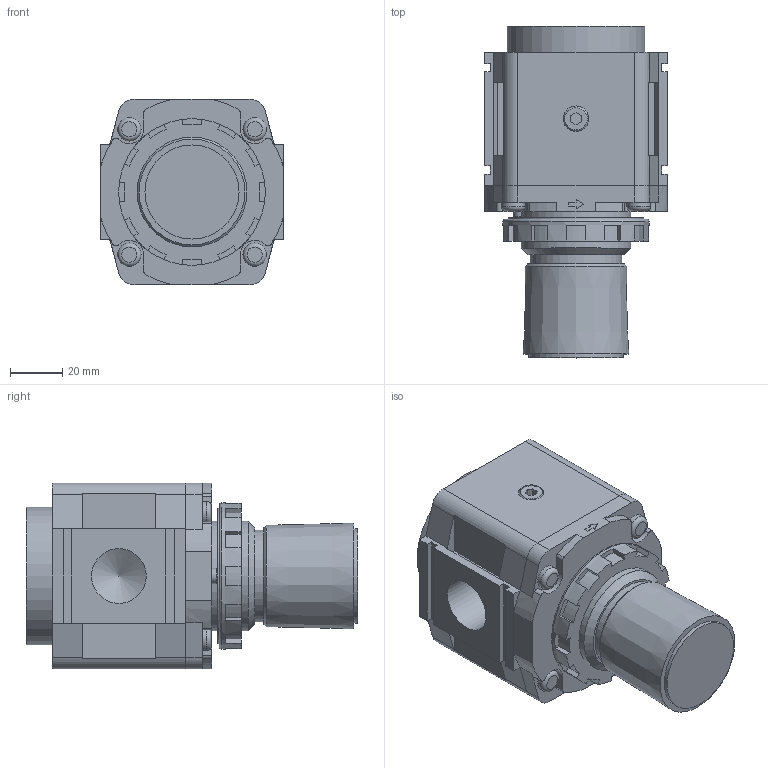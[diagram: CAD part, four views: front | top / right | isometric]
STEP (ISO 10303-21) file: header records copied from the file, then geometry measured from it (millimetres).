
FILE_DESCRIPTION(/* description */ ('STEP AP203'),/* implementation_level */ '2;1');
FILE_NAME(/* name */ 'AR40-04H-D(1)',/* time_stamp */ '2026-03-25T01:48:37+01:00',/* author */ ('License CC BY-ND 4.0'),/* organization */ ('CADENAS'),/* preprocessor_version */ 'ST-DEVELOPER v20',/* originating_system */ 'PARTsolutions',/* authorisation */ ' ');
FILE_SCHEMA (('CONFIG_CONTROL_DESIGN'));
Length unit declared in the file: millimetre
Products named in the file (5): AR40-04H-D(1); AR40-04H-D(1)_BODY; AR40-D_BOWL; AR43P-260S_SETNUT; 1/8
Assembly tree (5 placements, depth 2):
  AR40-04H-D(1)
    AR40-04H-D(1)_BODY
    AR40-D_BOWL
    AR43P-260S_SETNUT
    1/8  x2
Bounding box: 70 x 127 x 71 mm (x, y, z)
Volume: 355890.7 mm3; surface area: 53696.5 mm2
Topology: 5 solids, 5 shells, 282 faces, 743 edges, 492 vertices
Faces by surface type: plane 196, cylinder 68, cone 13, torus 5
Full cylindrical faces by diameter (mm): 9 x4, 9.728 x4, 20.955 x2, 35 x1, 36 x1, 40.376 x1, 42 x1, 47 x1, 48 x1, 52 x1, 52.6 x1, 56 x1
Entity records: 8211 total; most frequent: CARTESIAN_POINT 1412, DIRECTION 1406, ORIENTED_EDGE 1340, EDGE_CURVE 670, LINE 486, VECTOR 486, VERTEX_POINT 466, AXIS2_PLACEMENT_3D 460
